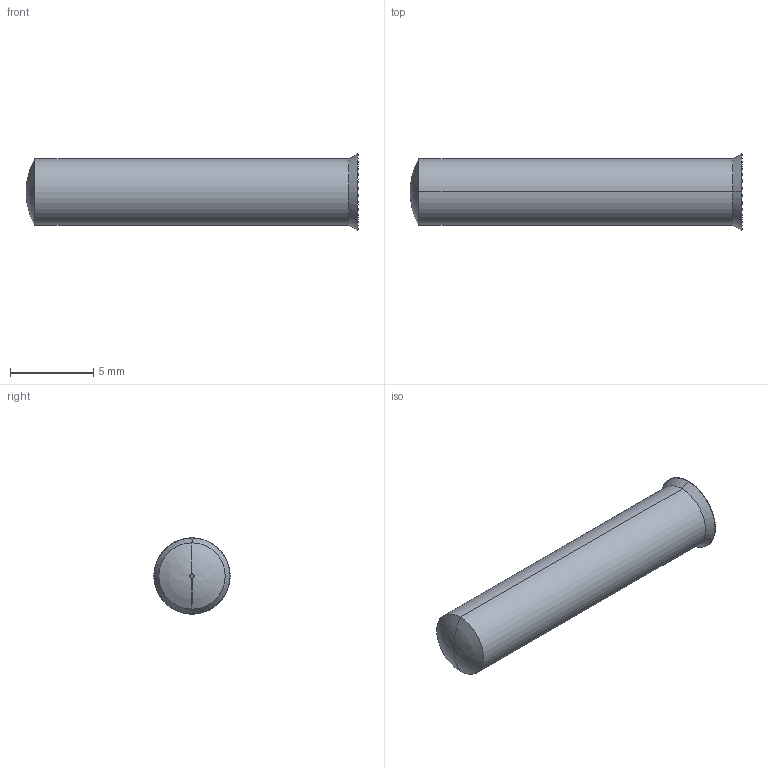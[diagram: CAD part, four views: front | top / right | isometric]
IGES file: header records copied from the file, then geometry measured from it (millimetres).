
Start section: SolidWorks IGES file using analytic representation for surfaces
Global section: file name: \\PSSILO\catalogs\CONTENTCENTRAL\Hammer Pin\Cache\0EC462A7-F91F-458F-9953-542F2D44319D.IGS; native system: SolidWorks 2009; preprocessor: SolidWorks 2009; author: partstream; date: 090731.225054; units: inch
Bounding box: 19.96 x 4.59 x 4.58 mm (x, y, z)
Surface area: 274.8 mm2 (no closed solid volume)
Topology: 0 solids, 0 shells, 12 faces, 88 edges, 88 vertices
Faces by surface type: revolution 8, bspline 4
